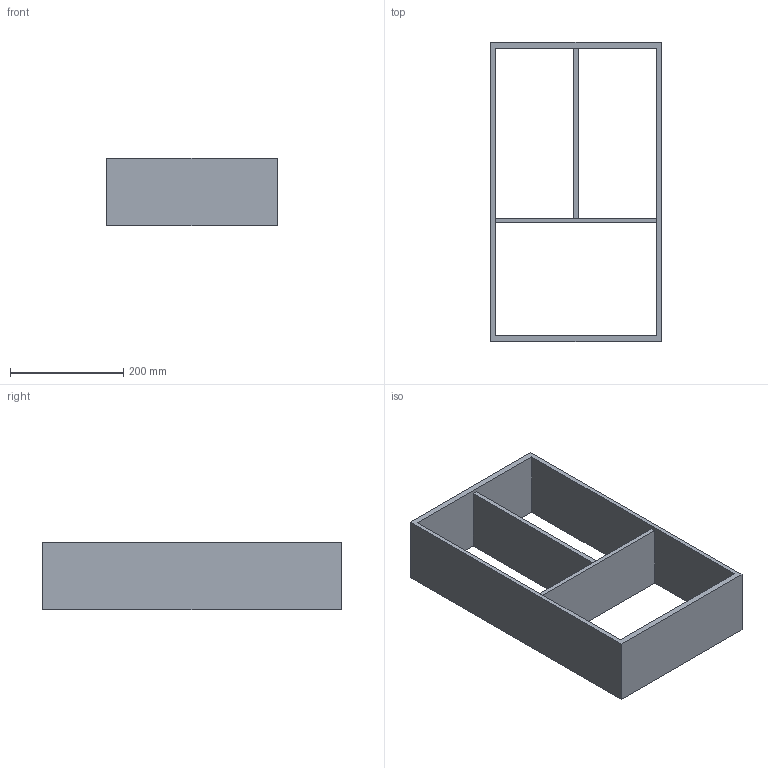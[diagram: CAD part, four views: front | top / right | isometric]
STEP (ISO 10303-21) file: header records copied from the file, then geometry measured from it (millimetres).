
FILE_DESCRIPTION (( 'STEP AP214' ), '1' );
FILE_NAME ('Vario Multi H120 NL550_B400_19 mm_Alu-Alu.step', '2010-10-08T09:48:07', ( 'grass' ), ( '' ), 'SwSTEP 2.0', 'SolidWorks 2010', '' );
FILE_SCHEMA (( 'AUTOMOTIVE_DESIGN' ));
Length unit declared in the file: millimetre
Products named in the file (1): Vario Multi H120 NL550_B400_19 mm_Alu-Alu
Bounding box: 302 x 529 x 120 mm (x, y, z)
Volume: 2304850.8 mm3; surface area: 558530.3 mm2
Topology: 1 solids, 1 shells, 18 faces, 48 edges, 32 vertices
Faces by surface type: plane 18
Entity records: 598 total; most frequent: CARTESIAN_POINT 99, ORIENTED_EDGE 96, DIRECTION 86, EDGE_CURVE 48, LINE 48, VECTOR 48, VERTEX_POINT 32, EDGE_LOOP 24
